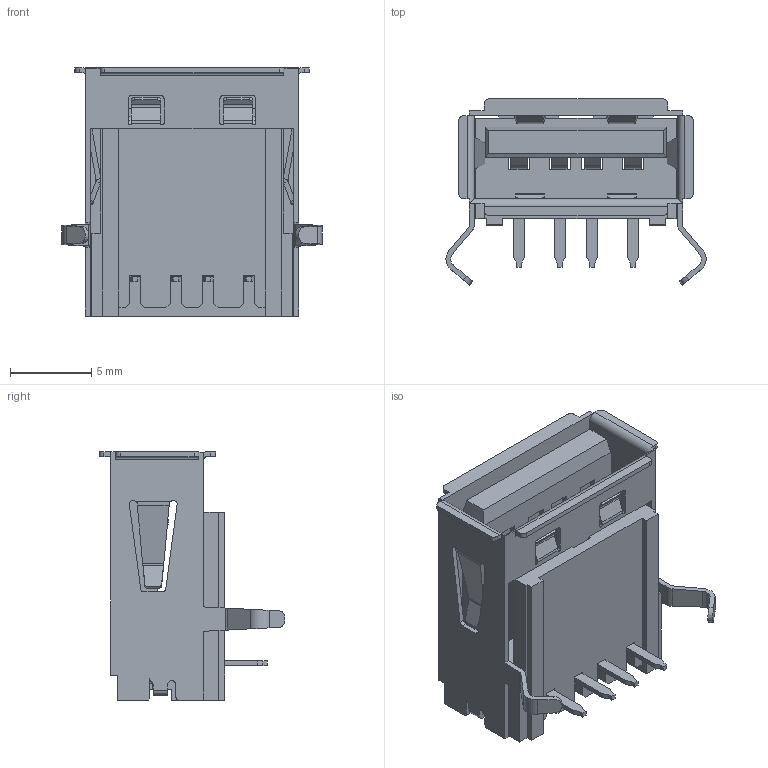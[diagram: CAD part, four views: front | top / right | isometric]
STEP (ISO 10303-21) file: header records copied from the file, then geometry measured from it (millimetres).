
FILE_DESCRIPTION(/* description */ (''),/* implementation_level */ '2;1');
FILE_NAME(/* name */ 'C:/Users/User/Desktop/USB_A_676430910.step',/* time_stamp */ '2021-04-20T14:40:47+09:00',/* author */ (''),/* organization */ (''),/* preprocessor_version */ 'ST-DEVELOPER v18.1',/* originating_system */ 'Autodesk Translation Framework v10.6.0.1341',/* authorisation */ '');
FILE_SCHEMA (('AUTOMOTIVE_DESIGN { 1 0 10303 214 3 1 1 }'));
Length unit declared in the file: millimetre
Products named in the file (1): USB_A_676430910
Bounding box: 16 x 11.43 x 15.26 mm (x, y, z)
Volume: 623.3 mm3; surface area: 2057.2 mm2
Topology: 1 solids, 1 shells, 519 faces, 1524 edges, 986 vertices
Faces by surface type: plane 357, cylinder 140, bspline 20, cone 2
Entity records: 17757 total; most frequent: CARTESIAN_POINT 3686, ORIENTED_EDGE 3048, DIRECTION 2764, EDGE_CURVE 1524, LINE 1212, VECTOR 1212, VERTEX_POINT 986, AXIS2_PLACEMENT_3D 776
